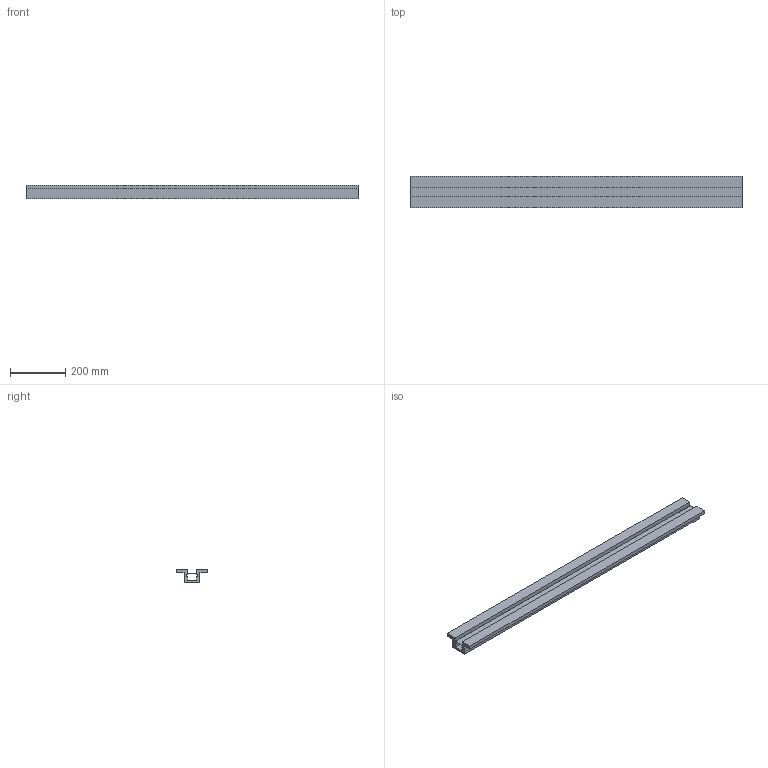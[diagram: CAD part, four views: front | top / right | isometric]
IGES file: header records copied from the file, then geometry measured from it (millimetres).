
Start section: SolidWorks IGES file using analytic representation for surfaces
Global section: file name: C:\Users\Stagiaire\Desktop\Rendu 3D\Micro BLADE\Micro BLADE 35\770_Micro_BLADE_35.IGS; native system: SolidWorks 2014; preprocessor: SolidWorks 2014; author: Stagiaire; date: 140915.111250; units: millimetre
Bounding box: 1200 x 115 x 50 mm (x, y, z)
Surface area: 642642.6 mm2 (no closed solid volume)
Topology: 0 solids, 0 shells, 30 faces, 156 edges, 156 vertices
Faces by surface type: bspline 30
